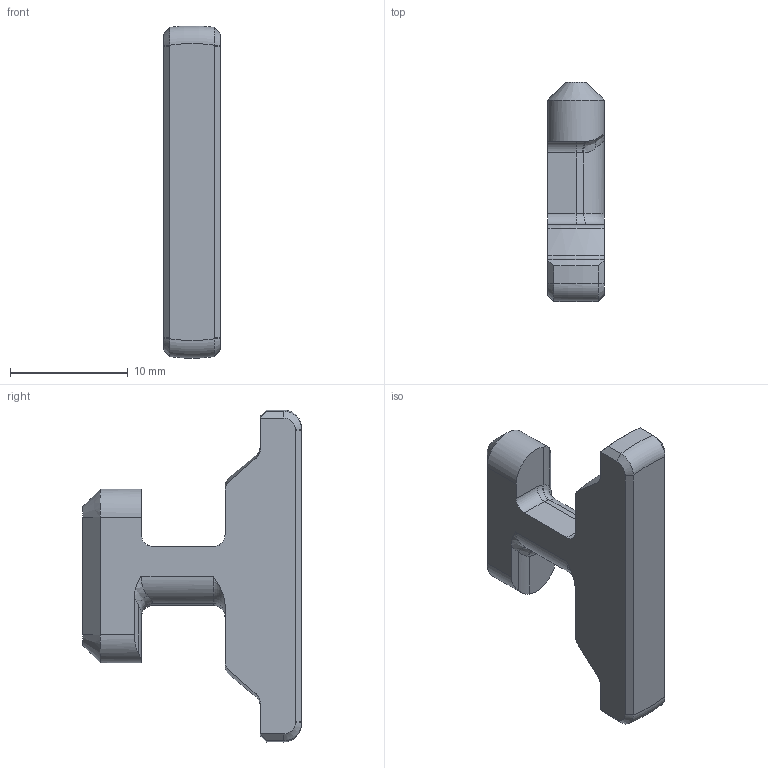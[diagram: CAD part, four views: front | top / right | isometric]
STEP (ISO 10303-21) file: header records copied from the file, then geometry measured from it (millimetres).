
FILE_DESCRIPTION(/* description */ (''),/* implementation_level */ '2;1');
FILE_NAME(/* name */ 'C:/Users/Will/Desktop/Twist Clip.step',/* time_stamp */ '2022-09-18T13:49:49-06:00',/* author */ (''),/* organization */ (''),/* preprocessor_version */ 'ST-DEVELOPER v19',/* originating_system */ 'Autodesk Translation Framework v11.7.0.108',/* authorisation */ '');
FILE_SCHEMA (('AUTOMOTIVE_DESIGN { 1 0 10303 214 3 1 1 }'));
Length unit declared in the file: millimetre
Products named in the file (1): Twist Clip
Bounding box: 4.8 x 18.62 x 28.26 mm (x, y, z)
Volume: 1171.2 mm3; surface area: 933.4 mm2
Topology: 1 solids, 1 shells, 68 faces, 174 edges, 108 vertices
Faces by surface type: plane 24, cylinder 16, bspline 14, torus 8, cone 6
Entity records: 2568 total; most frequent: CARTESIAN_POINT 983, ORIENTED_EDGE 348, DIRECTION 290, EDGE_CURVE 174, VERTEX_POINT 108, AXIS2_PLACEMENT_3D 107, LINE 76, VECTOR 76
